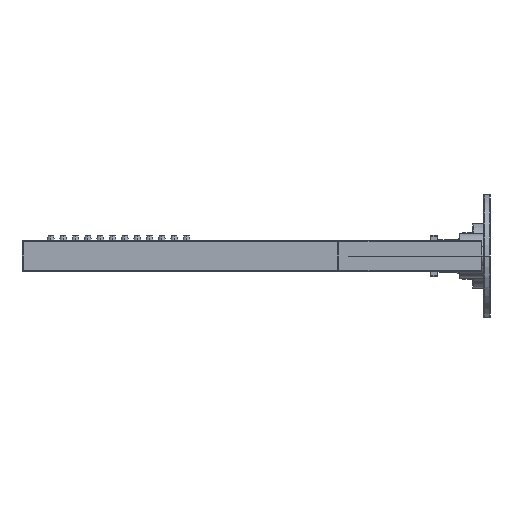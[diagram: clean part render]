
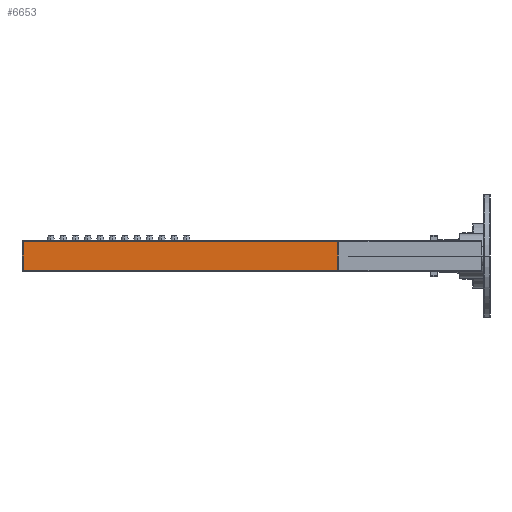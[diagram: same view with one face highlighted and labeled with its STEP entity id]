
A CAD part, left-side view. The second image highlights one B-rep face of the part: STEP entity #6653.
In plain terms, the highlighted planar face has unit normal (-1, 0, 0).
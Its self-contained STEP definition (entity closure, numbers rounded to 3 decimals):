
#2073=DIRECTION('',(0.,0.,1.));
#2074=VECTOR('',#2073,14.);
#2075=CARTESIAN_POINT('',(282.5,267.,-7.));
#2076=LINE('',#2075,#2074);
#2077=DIRECTION('',(0.,-1.,0.));
#2078=VECTOR('',#2077,204.5);
#2079=CARTESIAN_POINT('',(282.5,267.,7.));
#2080=LINE('',#2079,#2078);
#2081=DIRECTION('',(0.,-1.,0.));
#2082=VECTOR('',#2081,204.5);
#2083=CARTESIAN_POINT('',(282.5,267.,-7.));
#2084=LINE('',#2083,#2082);
#2132=DIRECTION('',(0.,0.,1.));
#2133=VECTOR('',#2132,14.);
#2134=CARTESIAN_POINT('',(282.5,62.5,-7.));
#2135=LINE('',#2134,#2133);
#5302=CARTESIAN_POINT('',(282.5,62.5,7.));
#5304=VERTEX_POINT('',#5302);
#5305=CARTESIAN_POINT('',(282.5,62.5,-7.));
#5307=VERTEX_POINT('',#5305);
#5333=CARTESIAN_POINT('',(282.5,267.,-7.));
#5334=VERTEX_POINT('',#5333);
#5337=CARTESIAN_POINT('',(282.5,267.,7.));
#5338=VERTEX_POINT('',#5337);
#6639=CARTESIAN_POINT('',(282.5,62.5,-7.5));
#6640=DIRECTION('',(-1.,0.,0.));
#6641=DIRECTION('',(0.,0.,1.));
#6642=AXIS2_PLACEMENT_3D('',#6639,#6640,#6641);
#6643=PLANE('',#6642);
#6645=ORIENTED_EDGE('',*,*,#6644,.T.);
#6647=ORIENTED_EDGE('',*,*,#6646,.T.);
#6649=ORIENTED_EDGE('',*,*,#6648,.F.);
#6650=ORIENTED_EDGE('',*,*,#6631,.F.);
#6651=EDGE_LOOP('',(#6645,#6647,#6649,#6650));
#6652=FACE_OUTER_BOUND('',#6651,.F.);
#6653=ADVANCED_FACE('',(#6652),#6643,.T.);
#6631=EDGE_CURVE('',#5334,#5307,#2084,.T.);
#6644=EDGE_CURVE('',#5334,#5338,#2076,.T.);
#6646=EDGE_CURVE('',#5338,#5304,#2080,.T.);
#6648=EDGE_CURVE('',#5307,#5304,#2135,.T.);
